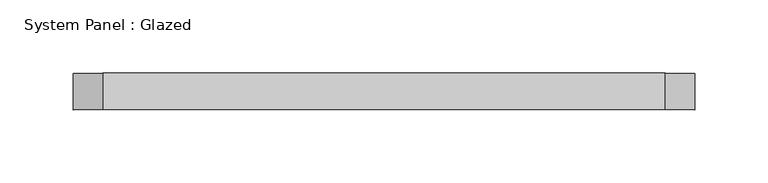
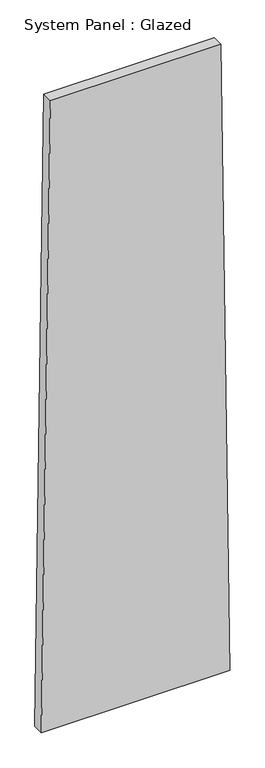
"""IFC4 building model written with IfcOpenShell, lengths in millimetres: plate geometry, System Panel : Glazed."""

from ifc_helpers import new_model, si_unit, frame, origin, place, context, project, spatial, polyline, outline, extrude, source, transform, mapped, element, save


def system_panel_glazed_119a9483(model_context):
    return source(origin(), model_context, "Body", "SweptSolid", [
        extrude(outline(polyline([(0.0, -212.41756), (0.0, 212.41756), (1499.8638533, 192.2079378), (1499.8638533, -192.2081139), (0.0, -212.41756)])), frame((0.0, -49.5, 0.0), z_axis=(0.0, 1.0, 0.0), x_axis=(0.0, 0.0, 1.0)), (0.0, 0.0, 1.0), 25.0),
    ])


if __name__ == "__main__":
    model = new_model("IFC4")
    model_context = context("Model", 3, world=origin())
    ifc_project = project(units=[si_unit("LENGTHUNIT", "METRE", prefix="MILLI")], contexts=[model_context])
    site = spatial("IfcSite", under=ifc_project)
    building = spatial("IfcBuilding", under=site)
    placement = place(None, origin())
    system_panel_glazed_shape = system_panel_glazed_119a9483(model_context)
    element("IfcPlate", 1, ObjectType="System Panel : Glazed", at=placement, inside=building, context=model_context, shape_type="MappedRepresentation", body=[
        mapped(system_panel_glazed_shape, transform((0.0, 0.0, 0.0), x_axis=(1.0, 0.0, 0.0), y_axis=(0.0, 1.0, 0.0), z_axis=(0.0, 0.0, 1.0))),
    ])
    save(model, "model.ifc")
